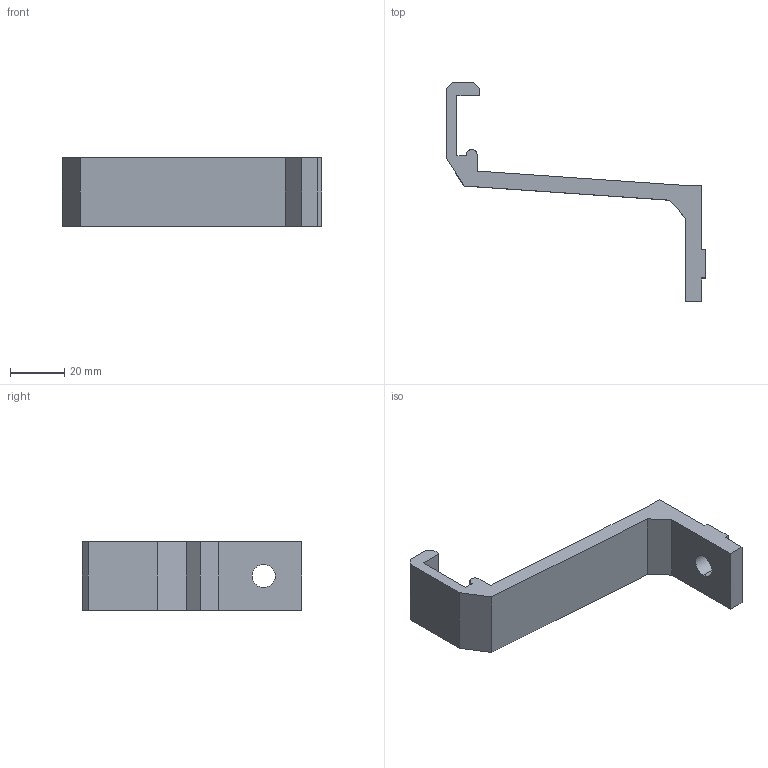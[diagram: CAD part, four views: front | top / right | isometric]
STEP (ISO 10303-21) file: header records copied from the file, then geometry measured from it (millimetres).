
FILE_DESCRIPTION (( 'STEP AP214' ), '1' );
FILE_NAME ('FGRB 90X42.step', '2017-04-05T07:39:08', ( '' ), ( '' ), 'SwSTEP 2.0', 'SolidWorks 2015', '' );
FILE_SCHEMA (( 'AUTOMOTIVE_DESIGN' ));
Length unit declared in the file: millimetre
Products named in the file (1): FGRB 90X42
Bounding box: 95.5 x 80.7 x 25 mm (x, y, z)
Volume: 24053.1 mm3; surface area: 10818.8 mm2
Topology: 1 solids, 1 shells, 29 faces, 81 edges, 54 vertices
Faces by surface type: plane 24, cylinder 5
Entity records: 963 total; most frequent: CARTESIAN_POINT 165, ORIENTED_EDGE 162, DIRECTION 151, EDGE_CURVE 81, VECTOR 71, LINE 71, VERTEX_POINT 54, AXIS2_PLACEMENT_3D 40
